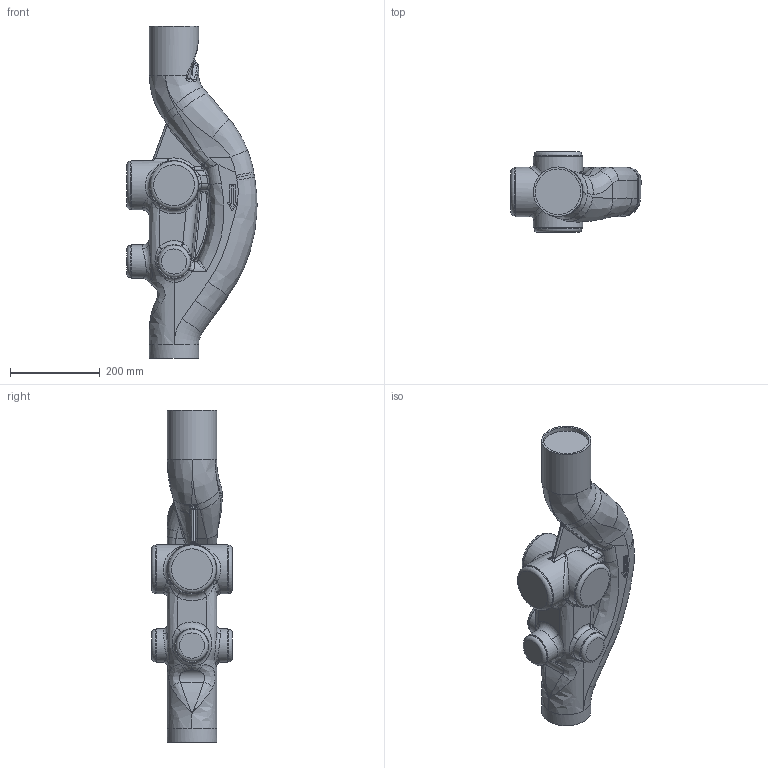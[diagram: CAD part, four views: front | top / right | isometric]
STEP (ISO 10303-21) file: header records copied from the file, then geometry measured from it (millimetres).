
FILE_DESCRIPTION(/* description */ (''),/* implementation_level */ '2;1');
FILE_NAME(/* name */ 'Z:\Geberit\Export\Export16\367.614_Sovent PE-HD d110¦110¦75 12L¦s\stp\367614.stp',/* time_stamp */ '2014-05-02T11:26:53+02:00',/* author */ ('MLorenz'),/* organization */ (''),/* preprocessor_version */ 'ST-DEVELOPER v15.2',/* originating_system */ 'Autodesk Inventor 2014',/* authorisation */ '');
FILE_SCHEMA (('AUTOMOTIVE_DESIGN { 1 0 10303 214 3 1 1 }'));
Products named in the file (1): 367614
Bounding box: 290.03 x 180 x 740 mm (x, y, z)
Volume: 12878275 mm3; surface area: 496149.6 mm2
Topology: 1 solids, 1 shells, 677 faces, 1712 edges, 1059 vertices
Faces by surface type: bspline 263, plane 246, cylinder 135, torus 21, sphere 11, cone 1
Full cylindrical faces by diameter (mm): 72 x3, 75 x3, 101.4 x2, 107 x3, 110 x5
Entity records: 62974 total; most frequent: CARTESIAN_POINT 47195, ORIENTED_EDGE 3328, DIRECTION 2775, EDGE_CURVE 1664, VERTEX_POINT 1050, AXIS2_PLACEMENT_3D 1009, LINE 757, VECTOR 757
